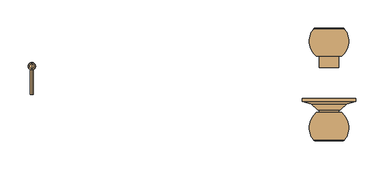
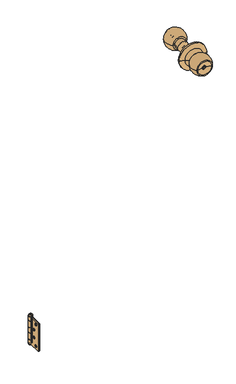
"""IFC4 building model written with IfcOpenShell, lengths in millimetres: door geometry, Puerta contraplacada : Puerta contraplacada 0.7x2.10 m."""

from ifc_helpers import new_model, si_unit, point, frame, frame_2d, origin, place, context, project, spatial, polyline, circle_curve, ellipse_curve, trimmed, segment, composite_curve, outline, extrude, source, transform, mapped, element, save
from ifc_brep_helpers import plane_surface, cylinder_surface, revolved_surface, advanced_brep


def door_609245de(model_context):
    return source(origin(), model_context, "Body", "SolidModel", [
        advanced_brep(
        [(-314.0, 7.5, 200.0349265), (-314.0, 7.5, 100.0349265), (-314.0, 51.5, 100.0349265), (-314.0, 51.5, 115.5349265), (-314.0, 51.0, 115.5349265), (-314.0, 51.0, 141.0349265), (-314.0, 51.5, 141.0349265), (-314.0, 51.5, 159.0349265), (-314.0, 51.0, 159.0349265), (-314.0, 51.0, 184.5349265), (-314.0, 51.5, 184.5349265), (-314.0, 51.5, 200.0349265), (-314.0, 17.5, 111.0349265), (-314.0, 25.5, 111.0349265), (-314.0, 28.5, 136.0349265), (-314.0, 36.5, 136.0349265), (-314.0, 17.5, 189.0349265), (-314.0, 25.5, 189.0349265), (-314.0, 28.5, 164.0349265), (-314.0, 36.5, 164.0349265), (-316.0, 7.5, 100.0349265), (-316.0, 7.5, 200.0349265), (-316.0, 53.027864, 200.0349265), (-316.0, 53.027864, 184.5349265), (-316.0, 51.0, 184.5349265), (-316.0, 51.0, 159.0349265), (-316.0, 53.027864, 159.0349265), (-316.0, 53.027864, 141.0349265), (-316.0, 51.0, 141.0349265), (-316.0, 51.0, 115.5349265), (-316.0, 53.027864, 115.5349265), (-316.0, 53.027864, 100.0349265), (-316.0, 25.5, 111.0349265), (-316.0, 17.5, 111.0349265), (-316.0, 36.5, 136.0349265), (-316.0, 28.5, 136.0349265), (-316.0, 25.5, 189.0349265), (-316.0, 17.5, 189.0349265), (-316.0, 36.5, 164.0349265), (-316.0, 28.5, 164.0349265), (-317.0, 53.027864, 100.0349265), (-317.0, 51.0192593, 100.0349265), (-317.0, 51.0192593, 200.0349265), (-317.0, 53.027864, 200.0349265), (-317.0, 53.027864, 184.5349265), (-317.0, 51.0192593, 184.5349265), (-317.0, 51.0192593, 159.0349265), (-317.0, 53.027864, 159.0349265), (-317.0, 53.027864, 141.0349265), (-317.0, 51.0192593, 141.0349265), (-317.0, 51.0192593, 115.5349265), (-317.0, 53.027864, 115.5349265)],
        [
            (0, 1),
            (1, 2),
            (2, 3),
            (3, 4),
            (4, 5),
            (5, 6),
            (6, 7),
            (7, 8),
            (8, 9),
            (9, 10),
            (10, 11),
            (11, 0),
            (12, 13, circle_curve(frame((-314.0, 21.5, 111.0349265), z_axis=(-1.0, 0.0, 0.0), x_axis=(0.0, -1.0, 0.0)), 4.0)),
            (13, 12, circle_curve(frame((-314.0, 21.5, 111.0349265), z_axis=(-1.0, 0.0, 0.0), x_axis=(0.0, -1.0, 0.0)), 4.0)),
            (14, 15, circle_curve(frame((-314.0, 32.5, 136.0349265), z_axis=(-1.0, 0.0, 0.0), x_axis=(0.0, -1.0, 0.0)), 4.0)),
            (15, 14, circle_curve(frame((-314.0, 32.5, 136.0349265), z_axis=(-1.0, 0.0, 0.0), x_axis=(0.0, -1.0, 0.0)), 4.0)),
            (16, 17, circle_curve(frame((-314.0, 21.5, 189.0349265), z_axis=(-1.0, 0.0, 0.0), x_axis=(0.0, -1.0, 0.0)), 4.0)),
            (17, 16, circle_curve(frame((-314.0, 21.5, 189.0349265), z_axis=(-1.0, 0.0, 0.0), x_axis=(0.0, -1.0, 0.0)), 4.0)),
            (18, 19, circle_curve(frame((-314.0, 32.5, 164.0349265), z_axis=(-1.0, 0.0, 0.0), x_axis=(0.0, -1.0, 0.0)), 4.0)),
            (19, 18, circle_curve(frame((-314.0, 32.5, 164.0349265), z_axis=(-1.0, 0.0, 0.0), x_axis=(0.0, -1.0, 0.0)), 4.0)),
            (20, 21),
            (21, 22),
            (22, 23),
            (23, 24),
            (24, 25),
            (25, 26),
            (26, 27),
            (27, 28),
            (28, 29),
            (29, 30),
            (30, 31),
            (31, 20),
            (32, 33, circle_curve(frame((-316.0, 21.5, 111.0349265), z_axis=(1.0, 0.0, 0.0), x_axis=(0.0, -1.0, 0.0)), 4.0)),
            (33, 32, circle_curve(frame((-316.0, 21.5, 111.0349265), z_axis=(1.0, 0.0, 0.0), x_axis=(0.0, -1.0, 0.0)), 4.0)),
            (34, 35, circle_curve(frame((-316.0, 32.5, 136.0349265), z_axis=(1.0, 0.0, 0.0), x_axis=(0.0, -1.0, 0.0)), 4.0)),
            (35, 34, circle_curve(frame((-316.0, 32.5, 136.0349265), z_axis=(1.0, 0.0, 0.0), x_axis=(0.0, -1.0, 0.0)), 4.0)),
            (36, 37, circle_curve(frame((-316.0, 21.5, 189.0349265), z_axis=(1.0, 0.0, 0.0), x_axis=(0.0, -1.0, 0.0)), 4.0)),
            (37, 36, circle_curve(frame((-316.0, 21.5, 189.0349265), z_axis=(1.0, 0.0, 0.0), x_axis=(0.0, -1.0, 0.0)), 4.0)),
            (38, 39, circle_curve(frame((-316.0, 32.5, 164.0349265), z_axis=(1.0, 0.0, 0.0), x_axis=(0.0, -1.0, 0.0)), 4.0)),
            (39, 38, circle_curve(frame((-316.0, 32.5, 164.0349265), z_axis=(1.0, 0.0, 0.0), x_axis=(0.0, -1.0, 0.0)), 4.0)),
            (1, 20),
            (31, 40, circle_curve(frame((-316.5, 57.5, 100.0349265), z_axis=(0.0, 0.0, 1.0), x_axis=(0.0, 1.0, 0.0)), 4.5)),
            (40, 41),
            (41, 2, circle_curve(frame((-316.5, 57.5, 100.0349265), z_axis=(0.0, 0.0, -1.0), x_axis=(0.0, 1.0, 0.0)), 6.5)),
            (0, 21),
            (11, 42, circle_curve(frame((-316.5, 57.5, 200.0349265), z_axis=(0.0, 0.0, 1.0), x_axis=(0.0, 1.0, 0.0)), 6.5)),
            (42, 43),
            (43, 22, circle_curve(frame((-316.5, 57.5, 200.0349265), z_axis=(0.0, 0.0, -1.0), x_axis=(0.0, 1.0, 0.0)), 4.5)),
            (24, 9),
            (8, 25),
            (28, 5),
            (4, 29),
            (23, 44, circle_curve(frame((-316.5, 57.5, 184.5349265), z_axis=(0.0, 0.0, 1.0), x_axis=(0.0, 1.0, 0.0)), 4.5)),
            (44, 45),
            (45, 10, circle_curve(frame((-316.5, 57.5, 184.5349265), z_axis=(0.0, 0.0, -1.0), x_axis=(0.0, 1.0, 0.0)), 6.5)),
            (45, 42),
            (44, 43),
            (7, 46, circle_curve(frame((-316.5, 57.5, 159.0349265), z_axis=(0.0, 0.0, 1.0), x_axis=(0.0, 1.0, 0.0)), 6.5)),
            (46, 47),
            (47, 26, circle_curve(frame((-316.5, 57.5, 159.0349265), z_axis=(0.0, 0.0, -1.0), x_axis=(0.0, 1.0, 0.0)), 4.5)),
            (27, 48, circle_curve(frame((-316.5, 57.5, 141.0349265), z_axis=(0.0, 0.0, 1.0), x_axis=(0.0, 1.0, 0.0)), 4.5)),
            (48, 49),
            (49, 6, circle_curve(frame((-316.5, 57.5, 141.0349265), z_axis=(0.0, 0.0, -1.0), x_axis=(0.0, 1.0, 0.0)), 6.5)),
            (49, 46),
            (48, 47),
            (3, 50, circle_curve(frame((-316.5, 57.5, 115.5349265), z_axis=(0.0, 0.0, 1.0), x_axis=(0.0, 1.0, 0.0)), 6.5)),
            (50, 51),
            (51, 30, circle_curve(frame((-316.5, 57.5, 115.5349265), z_axis=(0.0, 0.0, -1.0), x_axis=(0.0, 1.0, 0.0)), 4.5)),
            (41, 50),
            (40, 51),
            (32, 13),
            (12, 33),
            (34, 15),
            (14, 35),
            (36, 17),
            (16, 37),
            (38, 19),
            (18, 39),
        ],
        [
            plane_surface(frame((-314.0, 51.0, 100.0349265), z_axis=(1.0, 0.0, 0.0), x_axis=(0.0, 0.0, 1.0))),
            plane_surface(frame((-316.0, 51.0, 100.0349265), z_axis=(-1.0, 0.0, 0.0), x_axis=(0.0, 0.0, -1.0))),
            plane_surface(frame((-314.0, 7.5, 100.0349265), z_axis=(0.0, 0.0, -1.0), x_axis=(-1.0, 0.0, 0.0))),
            plane_surface(frame((-314.0, 7.5, 200.0349265), z_axis=(0.0, -1.0, 0.0), x_axis=(-1.0, 0.0, 0.0))),
            plane_surface(frame((-314.0, 51.0, 200.0349265), z_axis=(0.0, 0.0, 1.0), x_axis=(-1.0, 0.0, 0.0))),
            plane_surface(frame((-314.0, 51.0, 100.0349265), z_axis=(0.0, 1.0, 0.0), x_axis=(-1.0, 0.0, 0.0))),
            plane_surface(frame((-316.0, 51.0, 184.5349265), z_axis=(0.0, 0.0, -1.0), x_axis=(0.0, 1.0, 0.0))),
            cylinder_surface(frame((-316.5, 57.5, 184.5349265), z_axis=(0.0, 0.0, 1.0), x_axis=(0.0, 1.0, 0.0)), 6.5),
            plane_surface(frame((-317.0, 51.0192593, 200.0349265), z_axis=(1.0, 0.0, 0.0), x_axis=(0.0, 0.0, -1.0))),
            revolved_surface(polyline([(-316.5, 62.0, 184.5349265), (-316.5, 62.0, 200.0349265)]), (-316.5, 57.5, 184.5349265), (0.0, 0.0, -1.0)),
            plane_surface(frame((-316.0, 51.0, 159.0349265), z_axis=(0.0, 0.0, 1.0), x_axis=(0.0, -1.0, 0.0))),
            plane_surface(frame((-316.0, 51.0, 141.0349265), z_axis=(0.0, 0.0, -1.0), x_axis=(0.0, 1.0, 0.0))),
            cylinder_surface(frame((-316.5, 57.5, 141.0349265), z_axis=(0.0, 0.0, 1.0), x_axis=(0.0, 1.0, 0.0)), 6.5),
            plane_surface(frame((-317.0, 51.0192593, 159.0349265), z_axis=(1.0, 0.0, 0.0), x_axis=(0.0, 0.0, -1.0))),
            revolved_surface(polyline([(-316.5, 62.0, 141.0349265), (-316.5, 62.0, 159.0349265)]), (-316.5, 57.5, 141.0349265), (0.0, 0.0, -1.0)),
            plane_surface(frame((-316.0, 51.0, 115.5349265), z_axis=(0.0, 0.0, 1.0), x_axis=(0.0, -1.0, 0.0))),
            cylinder_surface(frame((-316.5, 57.5, 100.0349265), z_axis=(0.0, 0.0, 1.0), x_axis=(0.0, 1.0, 0.0)), 6.5),
            plane_surface(frame((-317.0, 51.0192593, 115.5349265), z_axis=(1.0, 0.0, 0.0), x_axis=(0.0, 0.0, -1.0))),
            revolved_surface(polyline([(-316.5, 62.0, 100.0349265), (-316.5, 62.0, 115.5349265)]), (-316.5, 57.5, 100.0349265), (0.0, 0.0, -1.0)),
            revolved_surface(polyline([(-314.0, 17.5, 111.0349265), (-316.0, 17.5, 111.0349265)]), (-319.0, 21.5, 111.0349265), (1.0, 0.0, 0.0)),
            revolved_surface(polyline([(-314.0, 28.5, 136.0349265), (-316.0, 28.5, 136.0349265)]), (-317.0, 32.5, 136.0349265), (1.0, 0.0, 0.0)),
            revolved_surface(polyline([(-314.0, 17.5, 189.0349265), (-316.0, 17.5, 189.0349265)]), (-317.0, 21.5, 189.0349265), (1.0, 0.0, 0.0)),
            revolved_surface(polyline([(-314.0, 28.5, 164.0349265), (-316.0, 28.5, 164.0349265)]), (-317.0, 32.5, 164.0349265), (1.0, 0.0, 0.0)),
        ],
        [
            (0, [[1, 2, 3, 4, 5, 6, 7, 8, 9, 10, 11, 12], [13, 14], [15, 16], [17, 18], [19, 20]]),
            (1, [[21, 22, 23, 24, 25, 26, 27, 28, 29, 30, 31, 32], [33, 34], [35, 36], [37, 38], [39, 40]]),
            (2, [[41, -32, 42, 43, 44, -2]]),
            (3, [[-1, 45, -21, -41]]),
            (4, [[-45, -12, 46, 47, 48, -22]]),
            (5, [[49, -9, 50, -25]]),
            (5, [[51, -5, 52, -29]]),
            (6, [[53, 54, 55, -10, -49, -24]]),
            (7, [[-46, -11, -55, 56]]),
            (8, [[-47, -56, -54, 57]]),
            (9, [[-48, -57, -53, -23]]),
            (10, [[58, 59, 60, -26, -50, -8]]),
            (11, [[61, 62, 63, -6, -51, -28]]),
            (12, [[-58, -7, -63, 64]]),
            (13, [[-59, -64, -62, 65]]),
            (14, [[-60, -65, -61, -27]]),
            (15, [[66, 67, 68, -30, -52, -4]]),
            (16, [[-66, -3, -44, 69]]),
            (17, [[-67, -69, -43, 70]]),
            (18, [[-68, -70, -42, -31]]),
            (19, [[71, -13, 72, -33]]),
            (19, [[-71, -34, -72, -14]]),
            (20, [[73, -15, 74, -35]]),
            (20, [[-73, -36, -74, -16]]),
            (21, [[75, -17, 76, -37]]),
            (21, [[-75, -38, -76, -18]]),
            (22, [[77, -19, 78, -39]]),
            (22, [[-77, -40, -78, -20]]),
        ],
    ),
        advanced_brep(
        [(-316.5, 53.0, 204.0349265), (-316.5, 61.9442719, 204.0349265), (-316.5, 61.9442719, 200.5349265), (-316.5, 53.0, 200.5349265), (-316.5, 57.472136, 204.0349265), (-316.5, 53.0, 96.0349265), (-316.5, 61.9442719, 96.0349265), (-316.5, 57.472136, 96.0349265), (-316.5, 53.0, 99.5349265), (-316.5, 61.9442719, 99.5349265)],
        [
            (0, 1, circle_curve(frame((-316.5, 57.472136, 204.0349265), z_axis=(0.0, 0.0, -1.0), x_axis=(0.0, 1.0, 0.0)), 4.472136)),
            (1, 2, circle_curve(frame((-316.5, 61.9442719, 202.2849265), z_axis=(-1.0, 0.0, 0.0), x_axis=(0.0, -1.0, 0.0)), 1.75)),
            (2, 3, circle_curve(frame((-316.5, 57.472136, 200.5349265), z_axis=(0.0, 0.0, 1.0), x_axis=(0.0, 1.0, 0.0)), 4.472136)),
            (3, 0, circle_curve(frame((-316.5, 53.0, 202.2849265), z_axis=(-1.0, 0.0, 0.0), x_axis=(0.0, 1.0, 0.0)), 1.75)),
            (1, 0, circle_curve(frame((-316.5, 57.472136, 204.0349265), z_axis=(0.0, 0.0, -1.0), x_axis=(0.0, 1.0, 0.0)), 4.472136)),
            (3, 2, circle_curve(frame((-316.5, 57.472136, 200.5349265), z_axis=(0.0, 0.0, 1.0), x_axis=(0.0, 1.0, 0.0)), 4.472136)),
            (4, 1),
            (0, 4),
            (5, 6, circle_curve(frame((-316.5, 57.472136, 96.0349265), z_axis=(0.0, 0.0, -1.0), x_axis=(0.0, 1.0, 0.0)), 4.472136)),
            (6, 7),
            (7, 5),
            (6, 5, circle_curve(frame((-316.5, 57.472136, 96.0349265), z_axis=(0.0, 0.0, -1.0), x_axis=(0.0, 1.0, 0.0)), 4.472136)),
            (8, 9, circle_curve(frame((-316.5, 57.472136, 99.5349265), z_axis=(0.0, 0.0, -1.0), x_axis=(0.0, 1.0, 0.0)), 4.472136)),
            (9, 6, circle_curve(frame((-316.5, 61.9442719, 97.7849265), z_axis=(-1.0, 0.0, 0.0), x_axis=(0.0, -1.0, 0.0)), 1.75)),
            (5, 8, circle_curve(frame((-316.5, 53.0, 97.7849265), z_axis=(-1.0, 0.0, 0.0), x_axis=(0.0, 1.0, 0.0)), 1.75)),
            (9, 8, circle_curve(frame((-316.5, 57.472136, 99.5349265), z_axis=(0.0, 0.0, -1.0), x_axis=(0.0, 1.0, 0.0)), 4.472136)),
            (2, 9),
            (8, 3),
        ],
        [
            revolved_surface(trimmed(ellipse_curve(frame((-316.5, 61.9442719, 202.2849265), z_axis=(1.0, 0.0, 0.0), x_axis=(0.0, -1.0, 0.0)), 1.75, 1.75), [point((-316.5, 61.9442719, 200.5349265))], [point((-316.5, 61.9442719, 204.0349265))], True, "CARTESIAN"), (-316.5, 57.472136, 204.0349265), (0.0, 0.0, 1.0)),
            plane_surface(frame((-316.5, 57.472136, 204.0349265), z_axis=(0.0, 0.0, 1.0), x_axis=(0.0, 1.0, 0.0))),
            plane_surface(frame((-316.5, 57.472136, 96.0349265), z_axis=(0.0, 0.0, -1.0), x_axis=(0.0, 1.0, 0.0))),
            revolved_surface(trimmed(ellipse_curve(frame((-316.5, 61.9442719, 97.7849265), z_axis=(1.0, 0.0, 0.0), x_axis=(0.0, -1.0, 0.0)), 1.75, 1.75), [point((-316.5, 61.9442719, 96.0349265))], [point((-316.5, 61.9442719, 99.5349265))], True, "CARTESIAN"), (-316.5, 57.472136, 204.0349265), (0.0, 0.0, 1.0)),
            cylinder_surface(frame((-316.5, 57.472136, 204.0349265), z_axis=(0.0, 0.0, 1.0), x_axis=(0.0, 1.0, 0.0)), 4.472136),
        ],
        [
            (0, [[1, 2, 3, 4]]),
            (0, [[5, -4, 6, -2]]),
            (1, [[7, -1, 8]]),
            (1, [[-8, -5, -7]]),
            (2, [[9, 10, 11]]),
            (2, [[12, -11, -10]]),
            (3, [[13, 14, -9, 15]]),
            (3, [[16, -15, -12, -14]]),
            (4, [[-3, 17, -13, 18]]),
            (4, [[-6, -18, -16, -17]]),
        ],
    ),
        advanced_brep(
        [(-317.0, 51.0, 200.0349265), (-317.0, 7.5, 200.0349265), (-317.0, 7.5, 100.0349265), (-317.0, 51.0, 100.0349265), (-317.0, 51.0, 116.5349265), (-317.0, 53.027864, 116.5349265), (-317.0, 53.027864, 140.0349265), (-317.0, 51.0, 140.0349265), (-317.0, 51.0, 160.0349265), (-317.0, 53.027864, 160.0349265), (-317.0, 53.027864, 183.5349265), (-317.0, 51.0, 183.5349265), (-317.0, 17.5, 111.0349265), (-317.0, 25.5, 111.0349265), (-317.0, 28.5, 136.0349265), (-317.0, 36.5, 136.0349265), (-317.0, 17.5, 189.0349265), (-317.0, 25.5, 189.0349265), (-317.0, 28.5, 164.0349265), (-317.0, 36.5, 164.0349265), (-319.0, 51.0, 100.0349265), (-319.0, 7.5, 100.0349265), (-319.0, 7.5, 200.0349265), (-319.0, 51.0, 200.0349265), (-319.0, 51.0, 183.5349265), (-319.0, 51.5, 183.5349265), (-319.0, 51.5, 160.0349265), (-319.0, 51.0, 160.0349265), (-319.0, 51.0, 140.0349265), (-319.0, 51.5, 140.0349265), (-319.0, 51.5, 116.5349265), (-319.0, 51.0, 116.5349265), (-319.0, 25.5, 111.0349265), (-319.0, 17.5, 111.0349265), (-319.0, 36.5, 136.0349265), (-319.0, 28.5, 136.0349265), (-319.0, 25.5, 189.0349265), (-319.0, 17.5, 189.0349265), (-319.0, 36.5, 164.0349265), (-319.0, 28.5, 164.0349265), (-316.0, 53.027864, 183.5349265), (-316.0, 51.0192593, 183.5349265), (-316.0, 51.0192593, 160.0349265), (-316.0, 53.027864, 160.0349265), (-316.0, 53.027864, 140.0349265), (-316.0, 51.0192593, 140.0349265), (-316.0, 51.0192593, 116.5349265), (-316.0, 53.027864, 116.5349265)],
        [
            (0, 1),
            (1, 2),
            (2, 3),
            (3, 4),
            (4, 5),
            (5, 6),
            (6, 7),
            (7, 8),
            (8, 9),
            (9, 10),
            (10, 11),
            (11, 0),
            (12, 13, circle_curve(frame((-317.0, 21.5, 111.0349265), z_axis=(-1.0, 0.0, 0.0), x_axis=(0.0, -1.0, 0.0)), 4.0)),
            (13, 12, circle_curve(frame((-317.0, 21.5, 111.0349265), z_axis=(-1.0, 0.0, 0.0), x_axis=(0.0, -1.0, 0.0)), 4.0)),
            (14, 15, circle_curve(frame((-317.0, 32.5, 136.0349265), z_axis=(-1.0, 0.0, 0.0), x_axis=(0.0, -1.0, 0.0)), 4.0)),
            (15, 14, circle_curve(frame((-317.0, 32.5, 136.0349265), z_axis=(-1.0, 0.0, 0.0), x_axis=(0.0, -1.0, 0.0)), 4.0)),
            (16, 17, circle_curve(frame((-317.0, 21.5, 189.0349265), z_axis=(-1.0, 0.0, 0.0), x_axis=(0.0, -1.0, 0.0)), 4.0)),
            (17, 16, circle_curve(frame((-317.0, 21.5, 189.0349265), z_axis=(-1.0, 0.0, 0.0), x_axis=(0.0, -1.0, 0.0)), 4.0)),
            (18, 19, circle_curve(frame((-317.0, 32.5, 164.0349265), z_axis=(-1.0, 0.0, 0.0), x_axis=(0.0, -1.0, 0.0)), 4.0)),
            (19, 18, circle_curve(frame((-317.0, 32.5, 164.0349265), z_axis=(-1.0, 0.0, 0.0), x_axis=(0.0, -1.0, 0.0)), 4.0)),
            (20, 21),
            (21, 22),
            (22, 23),
            (23, 24),
            (24, 25),
            (25, 26),
            (26, 27),
            (27, 28),
            (28, 29),
            (29, 30),
            (30, 31),
            (31, 20),
            (32, 33, circle_curve(frame((-319.0, 21.5, 111.0349265), z_axis=(1.0, 0.0, 0.0), x_axis=(0.0, -1.0, 0.0)), 4.0)),
            (33, 32, circle_curve(frame((-319.0, 21.5, 111.0349265), z_axis=(1.0, 0.0, 0.0), x_axis=(0.0, -1.0, 0.0)), 4.0)),
            (34, 35, circle_curve(frame((-319.0, 32.5, 136.0349265), z_axis=(1.0, 0.0, 0.0), x_axis=(0.0, -1.0, 0.0)), 4.0)),
            (35, 34, circle_curve(frame((-319.0, 32.5, 136.0349265), z_axis=(1.0, 0.0, 0.0), x_axis=(0.0, -1.0, 0.0)), 4.0)),
            (36, 37, circle_curve(frame((-319.0, 21.5, 189.0349265), z_axis=(1.0, 0.0, 0.0), x_axis=(0.0, -1.0, 0.0)), 4.0)),
            (37, 36, circle_curve(frame((-319.0, 21.5, 189.0349265), z_axis=(1.0, 0.0, 0.0), x_axis=(0.0, -1.0, 0.0)), 4.0)),
            (38, 39, circle_curve(frame((-319.0, 32.5, 164.0349265), z_axis=(1.0, 0.0, 0.0), x_axis=(0.0, -1.0, 0.0)), 4.0)),
            (39, 38, circle_curve(frame((-319.0, 32.5, 164.0349265), z_axis=(1.0, 0.0, 0.0), x_axis=(0.0, -1.0, 0.0)), 4.0)),
            (2, 21),
            (20, 3),
            (1, 22),
            (0, 23),
            (11, 24),
            (31, 4),
            (27, 8),
            (7, 28),
            (10, 40, circle_curve(frame((-316.5, 57.5, 183.5349265), z_axis=(0.0, 0.0, -1.0), x_axis=(0.0, 1.0, 0.0)), 4.5)),
            (40, 41),
            (41, 25, circle_curve(frame((-316.5, 57.5, 183.5349265), z_axis=(0.0, 0.0, 1.0), x_axis=(0.0, 1.0, 0.0)), 6.5)),
            (26, 42, circle_curve(frame((-316.5, 57.5, 160.0349265), z_axis=(0.0, 0.0, -1.0), x_axis=(0.0, 1.0, 0.0)), 6.5)),
            (42, 43),
            (43, 9, circle_curve(frame((-316.5, 57.5, 160.0349265), z_axis=(0.0, 0.0, 1.0), x_axis=(0.0, 1.0, 0.0)), 4.5)),
            (41, 42),
            (40, 43),
            (6, 44, circle_curve(frame((-316.5, 57.5, 140.0349265), z_axis=(0.0, 0.0, -1.0), x_axis=(0.0, 1.0, 0.0)), 4.5)),
            (44, 45),
            (45, 29, circle_curve(frame((-316.5, 57.5, 140.0349265), z_axis=(0.0, 0.0, 1.0), x_axis=(0.0, 1.0, 0.0)), 6.5)),
            (30, 46, circle_curve(frame((-316.5, 57.5, 116.5349265), z_axis=(0.0, 0.0, -1.0), x_axis=(0.0, 1.0, 0.0)), 6.5)),
            (46, 47),
            (47, 5, circle_curve(frame((-316.5, 57.5, 116.5349265), z_axis=(0.0, 0.0, 1.0), x_axis=(0.0, 1.0, 0.0)), 4.5)),
            (45, 46),
            (44, 47),
            (32, 13),
            (12, 33),
            (34, 15),
            (14, 35),
            (36, 17),
            (16, 37),
            (38, 19),
            (18, 39),
        ],
        [
            plane_surface(frame((-317.0, 51.0, 100.0349265), z_axis=(1.0, 0.0, 0.0), x_axis=(0.0, 0.0, 1.0))),
            plane_surface(frame((-319.0, 51.0, 100.0349265), z_axis=(-1.0, 0.0, 0.0), x_axis=(0.0, 0.0, -1.0))),
            plane_surface(frame((-317.0, 7.5, 100.0349265), z_axis=(0.0, 0.0, -1.0), x_axis=(-1.0, 0.0, 0.0))),
            plane_surface(frame((-317.0, 7.5, 200.0349265), z_axis=(0.0, -1.0, 0.0), x_axis=(-1.0, 0.0, 0.0))),
            plane_surface(frame((-317.0, 51.0, 200.0349265), z_axis=(0.0, 0.0, 1.0), x_axis=(-1.0, 0.0, 0.0))),
            plane_surface(frame((-317.0, 51.0, 100.0349265), z_axis=(0.0, 1.0, 0.0), x_axis=(-1.0, 0.0, 0.0))),
            plane_surface(frame((-316.5, 62.0, 183.5349265), z_axis=(0.0, 0.0, 1.0), x_axis=(1.0, 0.0, 0.0))),
            plane_surface(frame((-316.5, 62.0, 160.0349265), z_axis=(0.0, 0.0, -1.0), x_axis=(-1.0, 0.0, 0.0))),
            cylinder_surface(frame((-316.5, 57.5, 160.0349265), z_axis=(0.0, 0.0, 1.0), x_axis=(0.0, 1.0, 0.0)), 6.5),
            plane_surface(frame((-316.0, 53.027864, 183.5349265), z_axis=(-1.0, 0.0, 0.0), x_axis=(0.0, 0.0, -1.0))),
            revolved_surface(polyline([(-316.5, 62.0, 160.0349265), (-316.5, 62.0, 183.5349265)]), (-316.5, 57.5, 160.0349265), (0.0, 0.0, -1.0)),
            plane_surface(frame((-316.5, 62.0, 140.0349265), z_axis=(0.0, 0.0, 1.0), x_axis=(1.0, 0.0, 0.0))),
            plane_surface(frame((-316.5, 62.0, 116.5349265), z_axis=(0.0, 0.0, -1.0), x_axis=(-1.0, 0.0, 0.0))),
            cylinder_surface(frame((-316.5, 57.5, 116.5349265), z_axis=(0.0, 0.0, 1.0), x_axis=(0.0, 1.0, 0.0)), 6.5),
            plane_surface(frame((-316.0, 53.027864, 140.0349265), z_axis=(-1.0, 0.0, 0.0), x_axis=(0.0, 0.0, -1.0))),
            revolved_surface(polyline([(-316.5, 62.0, 116.5349265), (-316.5, 62.0, 140.0349265)]), (-316.5, 57.5, 116.5349265), (0.0, 0.0, -1.0)),
            revolved_surface(polyline([(-317.0, 17.5, 111.0349265), (-319.0, 17.5, 111.0349265)]), (-319.0, 21.5, 111.0349265), (1.0, 0.0, 0.0)),
            revolved_surface(polyline([(-317.0, 28.5, 136.0349265), (-319.0, 28.5, 136.0349265)]), (-317.0, 32.5, 136.0349265), (1.0, 0.0, 0.0)),
            revolved_surface(polyline([(-317.0, 17.5, 189.0349265), (-319.0, 17.5, 189.0349265)]), (-317.0, 21.5, 189.0349265), (1.0, 0.0, 0.0)),
            revolved_surface(polyline([(-317.0, 28.5, 164.0349265), (-319.0, 28.5, 164.0349265)]), (-317.0, 32.5, 164.0349265), (1.0, 0.0, 0.0)),
        ],
        [
            (0, [[1, 2, 3, 4, 5, 6, 7, 8, 9, 10, 11, 12], [13, 14], [15, 16], [17, 18], [19, 20]]),
            (1, [[21, 22, 23, 24, 25, 26, 27, 28, 29, 30, 31, 32], [33, 34], [35, 36], [37, 38], [39, 40]]),
            (2, [[-3, 41, -21, 42]]),
            (3, [[-2, 43, -22, -41]]),
            (4, [[-1, 44, -23, -43]]),
            (5, [[-44, -12, 45, -24]]),
            (5, [[-42, -32, 46, -4]]),
            (5, [[47, -8, 48, -28]]),
            (6, [[49, 50, 51, -25, -45, -11]]),
            (7, [[52, 53, 54, -9, -47, -27]]),
            (8, [[-51, 55, -52, -26]]),
            (9, [[-50, 56, -53, -55]]),
            (10, [[-49, -10, -54, -56]]),
            (11, [[57, 58, 59, -29, -48, -7]]),
            (12, [[60, 61, 62, -5, -46, -31]]),
            (13, [[-59, 63, -60, -30]]),
            (14, [[-58, 64, -61, -63]]),
            (15, [[-57, -6, -62, -64]]),
            (16, [[65, -13, 66, -33]]),
            (16, [[-65, -34, -66, -14]]),
            (17, [[67, -15, 68, -35]]),
            (17, [[-67, -36, -68, -16]]),
            (18, [[69, -17, 70, -37]]),
            (18, [[-69, -38, -70, -18]]),
            (19, [[71, -19, 72, -39]]),
            (19, [[-71, -40, -72, -20]]),
        ],
    ),
        advanced_brep(
        [(233.5312643, -74.946362, 1000.0), (187.0312357, -74.946362, 1000.0), (204.08125, -70.0573491, 1000.0), (216.48125, -70.0573491, 1000.0), (204.08125, -66.5726145, 1000.0), (216.48125, -66.5726145, 1000.0), (210.28125, -66.5726145, 1000.0), (187.840796, -25.0, 1000.0), (232.721704, -25.0, 1000.0), (211.28125, -25.0, 1000.0), (211.28125, -25.0, 1004.2233344), (210.28125, -25.0, 1004.2233344), (210.28125, -25.0, 1000.0), (209.28125, -25.0, 1000.0), (209.28125, -25.0, 998.7784645), (210.28125, -25.0, 998.7784645), (210.28125, -25.0, 997.5508857), (209.28125, -25.0, 997.5508857), (209.28125, -25.0, 995.9198337), (211.28125, -25.0, 995.9198337), (182.8579738, -73.6071088, 1000.0), (237.7045262, -73.6071088, 1000.0), (211.28125, -33.4273855, 995.9198337), (209.28125, -33.4273855, 995.9198337), (209.28125, -33.4273855, 997.5508857), (210.28125, -33.4273855, 997.5508857), (210.28125, -33.4273855, 998.7784645), (209.28125, -33.4273855, 998.7784645), (209.28125, -33.4273855, 1000.0), (210.28125, -33.4273855, 1000.0), (210.28125, -33.4273855, 1004.2233344), (211.28125, -33.4273855, 1004.2233344)],
        [
            (0, 1, circle_curve(frame((210.28125, -74.946362, 1000.0), z_axis=(0.0, -1.0, 0.0), x_axis=(-1.0, 0.0, 0.0)), 23.2500143)),
            (1, 2),
            (2, 3, circle_curve(frame((210.28125, -70.0573491, 1000.0), z_axis=(0.0, 1.0, 0.0), x_axis=(-1.0, 0.0, 0.0)), 6.2)),
            (3, 0),
            (1, 0, circle_curve(frame((210.28125, -74.946362, 1000.0), z_axis=(0.0, -1.0, 0.0), x_axis=(-1.0, 0.0, 0.0)), 23.2500143)),
            (3, 2, circle_curve(frame((210.28125, -70.0573491, 1000.0), z_axis=(0.0, 1.0, 0.0), x_axis=(-1.0, 0.0, 0.0)), 6.2)),
            (2, 4),
            (4, 5, circle_curve(frame((210.28125, -66.5726145, 1000.0), z_axis=(0.0, 1.0, 0.0), x_axis=(-1.0, 0.0, 0.0)), 6.2)),
            (5, 3),
            (5, 4, circle_curve(frame((210.28125, -66.5726145, 1000.0), z_axis=(0.0, 1.0, 0.0), x_axis=(-1.0, 0.0, 0.0)), 6.2)),
            (4, 6),
            (6, 5),
            (7, 8, circle_curve(frame((210.28125, -25.0, 1000.0), z_axis=(0.0, 1.0, 0.0), x_axis=(-1.0, 0.0, 0.0)), 22.440454)),
            (8, 9),
            (9, 10),
            (10, 11),
            (11, 12),
            (12, 13),
            (13, 7),
            (8, 7, circle_curve(frame((210.28125, -25.0, 1000.0), z_axis=(0.0, 1.0, 0.0), x_axis=(-1.0, 0.0, 0.0)), 22.440454)),
            (13, 14),
            (14, 15),
            (15, 16),
            (16, 17),
            (17, 18),
            (18, 19),
            (19, 9),
            (7, 20, circle_curve(frame((210.28125, -51.859375, 1000.0), z_axis=(0.0, 0.0, 1.0), x_axis=(1.0, 0.0, 0.0)), 35.0)),
            (20, 21, circle_curve(frame((210.28125, -73.6071088, 1000.0), z_axis=(0.0, 1.0, 0.0), x_axis=(-1.0, 0.0, 0.0)), 27.4232762)),
            (21, 8, circle_curve(frame((210.28125, -51.859375, 1000.0), z_axis=(0.0, 0.0, 1.0), x_axis=(-1.0, 0.0, 0.0)), 35.0)),
            (21, 20, circle_curve(frame((210.28125, -73.6071088, 1000.0), z_axis=(0.0, 1.0, 0.0), x_axis=(-1.0, 0.0, 0.0)), 27.4232762)),
            (0, 21, circle_curve(frame((234.6173206, -71.1588336, 1000.0), z_axis=(0.0, 0.0, 1.0), x_axis=(-1.0, 0.0, 0.0)), 3.9401636)),
            (20, 1, circle_curve(frame((185.9451794, -71.1588336, 1000.0), z_axis=(0.0, 0.0, 1.0), x_axis=(1.0, 0.0, 0.0)), 3.9401636)),
            (22, 23),
            (23, 24),
            (24, 25),
            (25, 26),
            (26, 27),
            (27, 28),
            (28, 29),
            (29, 30),
            (30, 31),
            (31, 22),
            (22, 19),
            (18, 23),
            (17, 24),
            (16, 25),
            (15, 26),
            (14, 27),
            (13, 28),
            (12, 29),
            (11, 30),
            (10, 31),
        ],
        [
            revolved_surface(polyline([(204.08125, -70.0573491, 1000.0), (187.0312357, -74.946362, 1000.0)]), (210.28125, -27.0, 1000.0), (0.0, 1.0, 0.0)),
            revolved_surface(polyline([(204.08125, -66.5726145, 1000.0), (204.08125, -70.0573491, 1000.0)]), (210.28125, -27.0, 1000.0), (0.0, 1.0, 0.0)),
            plane_surface(frame((210.28125, -66.5726145, 1000.0), z_axis=(0.0, -1.0, 0.0), x_axis=(-1.0, 0.0, 0.0))),
            plane_surface(frame((210.28125, -25.0, 1000.0), z_axis=(0.0, 1.0, 0.0), x_axis=(-1.0, 0.0, 0.0))),
            revolved_surface(trimmed(ellipse_curve(frame((210.28125, -51.859375, 1000.0), z_axis=(0.0, 0.0, -1.0), x_axis=(1.0, 0.0, 0.0)), 35.0, 35.0), [point((182.8579738, -73.6071088, 1000.0))], [point((187.840796, -25.0, 1000.0))], True, "CARTESIAN"), (210.28125, -27.0, 1000.0), (0.0, 1.0, 0.0)),
            revolved_surface(trimmed(ellipse_curve(frame((185.9451794, -71.1588336, 1000.0), z_axis=(0.0, 0.0, -1.0), x_axis=(1.0, 0.0, 0.0)), 3.9401636, 3.9401636), [point((187.0312357, -74.946362, 1000.0))], [point((182.8579738, -73.6071088, 1000.0))], True, "CARTESIAN"), (210.28125, -27.0, 1000.0), (0.0, 1.0, 0.0)),
            plane_surface(frame((209.28125, -33.4273855, 995.9198337), z_axis=(0.0, 1.0, 0.0), x_axis=(1.0, 0.0, 0.0))),
            plane_surface(frame((211.28125, -18.8970167, 995.9198337), z_axis=(0.0, 0.0, 1.0), x_axis=(0.0, -1.0, 0.0))),
            plane_surface(frame((209.28125, -18.8970167, 995.9198337), z_axis=(1.0, 0.0, 0.0), x_axis=(0.0, -1.0, 0.0))),
            plane_surface(frame((209.28125, -18.8970167, 997.5508857), z_axis=(0.0, 0.0, -1.0), x_axis=(0.0, -1.0, 0.0))),
            plane_surface(frame((210.28125, -18.8970167, 997.5508857), z_axis=(1.0, 0.0, 0.0), x_axis=(0.0, -1.0, 0.0))),
            plane_surface(frame((210.28125, -18.8970167, 998.7784645), z_axis=(0.0, 0.0, 1.0), x_axis=(0.0, -1.0, 0.0))),
            plane_surface(frame((209.28125, -18.8970167, 998.7784645), z_axis=(1.0, 0.0, 0.0), x_axis=(0.0, -1.0, 0.0))),
            plane_surface(frame((209.28125, -18.8970167, 1000.0), z_axis=(0.0, 0.0, -1.0), x_axis=(0.0, -1.0, 0.0))),
            plane_surface(frame((210.28125, -18.8970167, 1000.0), z_axis=(1.0, 0.0, 0.0), x_axis=(0.0, -1.0, 0.0))),
            plane_surface(frame((210.28125, -18.8970167, 1004.2233344), z_axis=(0.0, 0.0, -1.0), x_axis=(0.0, -1.0, 0.0))),
            plane_surface(frame((211.28125, -18.8970167, 1004.2233344), z_axis=(-1.0, 0.0, 0.0), x_axis=(0.0, -1.0, 0.0))),
        ],
        [
            (0, [[1, 2, 3, 4]]),
            (0, [[-2, 5, -4, 6]]),
            (1, [[-3, 7, 8, 9]]),
            (1, [[-6, -9, 10, -7]]),
            (2, [[-8, 11, 12]]),
            (2, [[-10, -12, -11]]),
            (3, [[13, 14, 15, 16, 17, 18, 19]]),
            (3, [[20, -19, 21, 22, 23, 24, 25, 26, 27, -14]]),
            (4, [[-13, 28, 29, 30]]),
            (4, [[-20, -30, 31, -28]]),
            (5, [[-1, 32, -29, 33]]),
            (5, [[-5, -33, -31, -32]]),
            (6, [[34, 35, 36, 37, 38, 39, 40, 41, 42, 43]]),
            (7, [[-34, 44, -26, 45]]),
            (8, [[-35, -45, -25, 46]]),
            (9, [[-36, -46, -24, 47]]),
            (10, [[-37, -47, -23, 48]]),
            (11, [[-38, -48, -22, 49]]),
            (12, [[-39, -49, -21, 50]]),
            (13, [[-40, -50, -18, 51]]),
            (14, [[-41, -51, -17, 52]]),
            (15, [[-42, -52, -16, 53]]),
            (16, [[-43, -53, -15, -27, -44]]),
        ],
    ),
        advanced_brep(
        [(192.78125, -5.0, 1000.0), (227.78125, -5.0, 1000.0), (192.78125, -25.0, 1000.0), (227.78125, -25.0, 1000.0), (211.28125, -25.0, 995.9198337), (209.28125, -25.0, 995.9198337), (209.28125, -25.0, 997.5508857), (210.28125, -25.0, 997.5508857), (210.28125, -25.0, 998.7784645), (209.28125, -25.0, 998.7784645), (209.28125, -25.0, 1000.0), (210.28125, -25.0, 1000.0), (210.28125, -25.0, 1004.2233344), (211.28125, -25.0, 1004.2233344), (211.28125, -18.8970167, 995.9198337), (211.28125, -18.8970167, 1004.2233344), (210.28125, -18.8970167, 1004.2233344), (210.28125, -18.8970167, 1000.0), (209.28125, -18.8970167, 1000.0), (209.28125, -18.8970167, 998.7784645), (210.28125, -18.8970167, 998.7784645), (210.28125, -18.8970167, 997.5508857), (209.28125, -18.8970167, 997.5508857), (209.28125, -18.8970167, 995.9198337)],
        [
            (0, 1, circle_curve(frame((210.28125, -5.0, 1000.0), z_axis=(0.0, 1.0, 0.0), x_axis=(1.0, 0.0, 0.0)), 17.5)),
            (1, 0, circle_curve(frame((210.28125, -5.0, 1000.0), z_axis=(0.0, 1.0, 0.0), x_axis=(1.0, 0.0, 0.0)), 17.5)),
            (2, 3, circle_curve(frame((210.28125, -25.0, 1000.0), z_axis=(0.0, -1.0, 0.0), x_axis=(1.0, 0.0, 0.0)), 17.5)),
            (3, 2, circle_curve(frame((210.28125, -25.0, 1000.0), z_axis=(0.0, -1.0, 0.0), x_axis=(1.0, 0.0, 0.0)), 17.5)),
            (4, 5),
            (5, 6),
            (6, 7),
            (7, 8),
            (8, 9),
            (9, 10),
            (10, 11),
            (11, 12),
            (12, 13),
            (13, 4),
            (0, 2),
            (3, 1),
            (14, 15),
            (15, 16),
            (16, 17),
            (17, 18),
            (18, 19),
            (19, 20),
            (20, 21),
            (21, 22),
            (22, 23),
            (23, 14),
            (23, 5),
            (4, 14),
            (22, 6),
            (21, 7),
            (20, 8),
            (19, 9),
            (18, 10),
            (17, 11),
            (16, 12),
            (15, 13),
        ],
        [
            plane_surface(frame((227.78125, -5.0, 1000.0), z_axis=(0.0, 1.0, 0.0), x_axis=(0.0, 0.0, -1.0))),
            plane_surface(frame((227.78125, -25.0, 1000.0), z_axis=(0.0, -1.0, 0.0), x_axis=(0.0, 0.0, 1.0))),
            cylinder_surface(frame((210.28125, -25.0, 1000.0), z_axis=(0.0, 1.0, 0.0), x_axis=(1.0, 0.0, 0.0)), 17.5),
            plane_surface(frame((209.28125, -18.8970167, 995.9198337), z_axis=(0.0, -1.0, 0.0), x_axis=(-1.0, 0.0, 0.0))),
            plane_surface(frame((211.28125, -18.8970167, 995.9198337), z_axis=(0.0, 0.0, 1.0), x_axis=(0.0, -1.0, 0.0))),
            plane_surface(frame((209.28125, -18.8970167, 995.9198337), z_axis=(1.0, 0.0, 0.0), x_axis=(0.0, -1.0, 0.0))),
            plane_surface(frame((209.28125, -18.8970167, 997.5508857), z_axis=(0.0, 0.0, -1.0), x_axis=(0.0, -1.0, 0.0))),
            plane_surface(frame((210.28125, -18.8970167, 997.5508857), z_axis=(1.0, 0.0, 0.0), x_axis=(0.0, -1.0, 0.0))),
            plane_surface(frame((210.28125, -18.8970167, 998.7784645), z_axis=(0.0, 0.0, 1.0), x_axis=(0.0, -1.0, 0.0))),
            plane_surface(frame((209.28125, -18.8970167, 998.7784645), z_axis=(1.0, 0.0, 0.0), x_axis=(0.0, -1.0, 0.0))),
            plane_surface(frame((209.28125, -18.8970167, 1000.0), z_axis=(0.0, 0.0, -1.0), x_axis=(0.0, -1.0, 0.0))),
            plane_surface(frame((210.28125, -18.8970167, 1000.0), z_axis=(1.0, 0.0, 0.0), x_axis=(0.0, -1.0, 0.0))),
            plane_surface(frame((210.28125, -18.8970167, 1004.2233344), z_axis=(0.0, 0.0, -1.0), x_axis=(0.0, -1.0, 0.0))),
            plane_surface(frame((211.28125, -18.8970167, 1004.2233344), z_axis=(-1.0, 0.0, 0.0), x_axis=(0.0, -1.0, 0.0))),
        ],
        [
            (0, [[1, 2]]),
            (1, [[3, 4], [5, 6, 7, 8, 9, 10, 11, 12, 13, 14]]),
            (2, [[-1, 15, -4, 16]]),
            (2, [[-2, -16, -3, -15]]),
            (3, [[17, 18, 19, 20, 21, 22, 23, 24, 25, 26]]),
            (4, [[-26, 27, -5, 28]]),
            (5, [[-25, 29, -6, -27]]),
            (6, [[-24, 30, -7, -29]]),
            (7, [[-23, 31, -8, -30]]),
            (8, [[-22, 32, -9, -31]]),
            (9, [[-21, 33, -10, -32]]),
            (10, [[-20, 34, -11, -33]]),
            (11, [[-19, 35, -12, -34]]),
            (12, [[-18, 36, -13, -35]]),
            (13, [[-17, -28, -14, -36]]),
        ],
    ),
        advanced_brep(
        [(216.203125, 120.0573491, 1000.0), (204.359375, 120.0573491, 1000.0), (204.359375, 116.5726145, 1000.0), (216.203125, 116.5726145, 1000.0), (215.203125, 120.0573491, 1000.0), (205.359375, 120.0573491, 1000.0), (211.28125, 120.0573491, 1000.0), (211.28125, 120.0573491, 1004.2233344), (210.28125, 120.0573491, 1004.2233344), (210.28125, 120.0573491, 1000.0), (209.28125, 120.0573491, 1000.0), (209.28125, 120.0573491, 998.7784645), (210.28125, 120.0573491, 998.7784645), (210.28125, 120.0573491, 997.5508857), (209.28125, 120.0573491, 997.5508857), (209.28125, 120.0573491, 995.9198337), (211.28125, 120.0573491, 995.9198337), (209.28125, 116.5726145, 1000.0), (210.28125, 116.5726145, 1000.0), (210.28125, 116.5726145, 1004.2233344), (211.28125, 116.5726145, 1004.2233344), (211.28125, 116.5726145, 1000.0), (211.28125, 116.5726145, 995.9198337), (209.28125, 116.5726145, 995.9198337), (209.28125, 116.5726145, 997.5508857), (210.28125, 116.5726145, 997.5508857), (210.28125, 116.5726145, 998.7784645), (209.28125, 116.5726145, 998.7784645)],
        [
            (0, 1, circle_curve(frame((210.28125, 120.0573491, 1000.0), z_axis=(0.0, -1.0, 0.0), x_axis=(-1.0, 0.0, 0.0)), 5.921875)),
            (1, 2),
            (2, 3, circle_curve(frame((210.28125, 116.5726145, 1000.0), z_axis=(0.0, 1.0, 0.0), x_axis=(-1.0, 0.0, 0.0)), 5.921875)),
            (3, 0),
            (1, 0, circle_curve(frame((210.28125, 120.0573491, 1000.0), z_axis=(0.0, -1.0, 0.0), x_axis=(-1.0, 0.0, 0.0)), 5.921875)),
            (3, 2, circle_curve(frame((210.28125, 116.5726145, 1000.0), z_axis=(0.0, 1.0, 0.0), x_axis=(-1.0, 0.0, 0.0)), 5.921875)),
            (0, 4, circle_curve(frame((215.703125, 120.0573491, 1000.0), z_axis=(0.0, 0.0, 1.0), x_axis=(-1.0, 0.0, 0.0)), 0.5)),
            (4, 5, circle_curve(frame((210.28125, 120.0573491, 1000.0), z_axis=(0.0, -1.0, 0.0), x_axis=(-1.0, 0.0, 0.0)), 4.921875)),
            (5, 1, circle_curve(frame((204.859375, 120.0573491, 1000.0), z_axis=(0.0, 0.0, 1.0), x_axis=(1.0, 0.0, 0.0)), 0.5)),
            (5, 4, circle_curve(frame((210.28125, 120.0573491, 1000.0), z_axis=(0.0, -1.0, 0.0), x_axis=(-1.0, 0.0, 0.0)), 4.921875)),
            (4, 6),
            (6, 7),
            (7, 8),
            (8, 9),
            (9, 10),
            (10, 5),
            (10, 11),
            (11, 12),
            (12, 13),
            (13, 14),
            (14, 15),
            (15, 16),
            (16, 6),
            (2, 17),
            (17, 18),
            (18, 19),
            (19, 20),
            (20, 21),
            (21, 3),
            (21, 22),
            (22, 23),
            (23, 24),
            (24, 25),
            (25, 26),
            (26, 27),
            (27, 17),
            (22, 16),
            (15, 23),
            (14, 24),
            (13, 25),
            (12, 26),
            (11, 27),
            (10, 17),
            (9, 18),
            (8, 19),
            (7, 20),
        ],
        [
            cylinder_surface(frame((210.28125, 116.5726145, 1000.0), z_axis=(0.0, 1.0, 0.0), x_axis=(-1.0, 0.0, 0.0)), 5.921875),
            revolved_surface(trimmed(ellipse_curve(frame((204.859375, 120.0573491, 1000.0), z_axis=(0.0, 0.0, -1.0), x_axis=(1.0, 0.0, 0.0)), 0.5, 0.5), [point((204.359375, 120.0573491, 1000.0))], [point((205.359375, 120.0573491, 1000.0))], True, "CARTESIAN"), (210.28125, 116.5726145, 1000.0), (0.0, 1.0, 0.0)),
            plane_surface(frame((210.28125, 120.0573491, 1000.0), z_axis=(0.0, 1.0, 0.0), x_axis=(-1.0, 0.0, 0.0))),
            plane_surface(frame((210.28125, 116.5726145, 1000.0), z_axis=(0.0, -1.0, 0.0), x_axis=(-1.0, 0.0, 0.0))),
            plane_surface(frame((211.28125, 131.1029833, 995.9198337), z_axis=(0.0, 0.0, 1.0), x_axis=(0.0, -1.0, 0.0))),
            plane_surface(frame((209.28125, 131.1029833, 995.9198337), z_axis=(1.0, 0.0, 0.0), x_axis=(0.0, -1.0, 0.0))),
            plane_surface(frame((209.28125, 131.1029833, 997.5508857), z_axis=(0.0, 0.0, -1.0), x_axis=(0.0, -1.0, 0.0))),
            plane_surface(frame((210.28125, 131.1029833, 997.5508857), z_axis=(1.0, 0.0, 0.0), x_axis=(0.0, -1.0, 0.0))),
            plane_surface(frame((210.28125, 131.1029833, 998.7784645), z_axis=(0.0, 0.0, 1.0), x_axis=(0.0, -1.0, 0.0))),
            plane_surface(frame((209.28125, 131.1029833, 998.7784645), z_axis=(1.0, 0.0, 0.0), x_axis=(0.0, -1.0, 0.0))),
            plane_surface(frame((209.28125, 131.1029833, 1000.0), z_axis=(0.0, 0.0, -1.0), x_axis=(0.0, -1.0, 0.0))),
            plane_surface(frame((210.28125, 131.1029833, 1000.0), z_axis=(1.0, 0.0, 0.0), x_axis=(0.0, -1.0, 0.0))),
            plane_surface(frame((210.28125, 131.1029833, 1004.2233344), z_axis=(0.0, 0.0, -1.0), x_axis=(0.0, -1.0, 0.0))),
            plane_surface(frame((211.28125, 131.1029833, 1004.2233344), z_axis=(-1.0, 0.0, 0.0), x_axis=(0.0, -1.0, 0.0))),
        ],
        [
            (0, [[1, 2, 3, 4]]),
            (0, [[-2, 5, -4, 6]]),
            (1, [[-1, 7, 8, 9]]),
            (1, [[-5, -9, 10, -7]]),
            (2, [[-8, 11, 12, 13, 14, 15, 16]]),
            (2, [[-10, -16, 17, 18, 19, 20, 21, 22, 23, -11]]),
            (3, [[-3, 24, 25, 26, 27, 28, 29]]),
            (3, [[-6, -29, 30, 31, 32, 33, 34, 35, 36, -24]]),
            (4, [[37, -22, 38, -31]]),
            (5, [[-38, -21, 39, -32]]),
            (6, [[-39, -20, 40, -33]]),
            (7, [[-40, -19, 41, -34]]),
            (8, [[-41, -18, 42, -35]]),
            (9, [[43, -36, -42, -17]]),
            (10, [[-43, -15, 44, -25]]),
            (11, [[-44, -14, 45, -26]]),
            (12, [[-45, -13, 46, -27]]),
            (13, [[-37, -30, -28, -46, -12, -23]]),
        ],
    ),
        advanced_brep(
        [(216.48125, 120.0573491, 1000.0), (204.08125, 120.0573491, 1000.0), (187.0312357, 124.946362, 1000.0), (233.5312643, 124.946362, 1000.0), (216.48125, 116.5726145, 1000.0), (204.08125, 116.5726145, 1000.0), (211.28125, 116.5726145, 1000.0), (210.28125, 116.5726145, 1000.0), (209.28125, 116.5726145, 1000.0), (232.721704, 75.0, 1000.0), (187.840796, 75.0, 1000.0), (210.28125, 75.0, 1000.0), (237.7045262, 123.6071088, 1000.0), (182.8579738, 123.6071088, 1000.0)],
        [
            (0, 1, circle_curve(frame((210.28125, 120.0573491, 1000.0), z_axis=(0.0, -1.0, 0.0), x_axis=(-1.0, 0.0, 0.0)), 6.2)),
            (1, 2),
            (2, 3, circle_curve(frame((210.28125, 124.946362, 1000.0), z_axis=(0.0, 1.0, 0.0), x_axis=(-1.0, 0.0, 0.0)), 23.2500143)),
            (3, 0),
            (1, 0, circle_curve(frame((210.28125, 120.0573491, 1000.0), z_axis=(0.0, -1.0, 0.0), x_axis=(-1.0, 0.0, 0.0)), 6.2)),
            (3, 2, circle_curve(frame((210.28125, 124.946362, 1000.0), z_axis=(0.0, 1.0, 0.0), x_axis=(-1.0, 0.0, 0.0)), 23.2500143)),
            (0, 4),
            (4, 5, circle_curve(frame((210.28125, 116.5726145, 1000.0), z_axis=(0.0, -1.0, 0.0), x_axis=(-1.0, 0.0, 0.0)), 6.2)),
            (5, 1),
            (5, 4, circle_curve(frame((210.28125, 116.5726145, 1000.0), z_axis=(0.0, -1.0, 0.0), x_axis=(-1.0, 0.0, 0.0)), 6.2)),
            (4, 6),
            (6, 7),
            (7, 8),
            (8, 5),
            (9, 10, circle_curve(frame((210.28125, 75.0, 1000.0), z_axis=(0.0, -1.0, 0.0), x_axis=(-1.0, 0.0, 0.0)), 22.440454)),
            (10, 11),
            (11, 9),
            (10, 9, circle_curve(frame((210.28125, 75.0, 1000.0), z_axis=(0.0, -1.0, 0.0), x_axis=(-1.0, 0.0, 0.0)), 22.440454)),
            (9, 12, circle_curve(frame((210.28125, 101.859375, 1000.0), z_axis=(0.0, 0.0, 1.0), x_axis=(-1.0, 0.0, 0.0)), 35.0)),
            (12, 13, circle_curve(frame((210.28125, 123.6071088, 1000.0), z_axis=(0.0, -1.0, 0.0), x_axis=(-1.0, 0.0, 0.0)), 27.4232762)),
            (13, 10, circle_curve(frame((210.28125, 101.859375, 1000.0), z_axis=(0.0, 0.0, 1.0), x_axis=(1.0, 0.0, 0.0)), 35.0)),
            (13, 12, circle_curve(frame((210.28125, 123.6071088, 1000.0), z_axis=(0.0, -1.0, 0.0), x_axis=(-1.0, 0.0, 0.0)), 27.4232762)),
            (2, 13, circle_curve(frame((185.9451794, 121.1588336, 1000.0), z_axis=(0.0, 0.0, 1.0), x_axis=(1.0, 0.0, 0.0)), 3.9401636)),
            (12, 3, circle_curve(frame((234.6173206, 121.1588336, 1000.0), z_axis=(0.0, 0.0, 1.0), x_axis=(-1.0, 0.0, 0.0)), 3.9401636)),
        ],
        [
            revolved_surface(polyline([(187.0312357, 124.946362, 1000.0), (204.08125, 120.0573491, 1000.0)]), (210.28125, 77.0, 1000.0), (0.0, 1.0, 0.0)),
            revolved_surface(polyline([(204.08125, 120.0573491, 1000.0), (204.08125, 116.5726145, 1000.0)]), (210.28125, 77.0, 1000.0), (0.0, 1.0, 0.0)),
            plane_surface(frame((210.28125, 116.5726145, 1000.0), z_axis=(0.0, 1.0, 0.0), x_axis=(-1.0, 0.0, 0.0))),
            plane_surface(frame((210.28125, 75.0, 1000.0), z_axis=(0.0, -1.0, 0.0), x_axis=(-1.0, 0.0, 0.0))),
            revolved_surface(trimmed(ellipse_curve(frame((210.28125, 101.859375, 1000.0), z_axis=(0.0, 0.0, -1.0), x_axis=(1.0, 0.0, 0.0)), 35.0, 35.0), [point((187.840796, 75.0, 1000.0))], [point((182.8579738, 123.6071088, 1000.0))], True, "CARTESIAN"), (210.28125, 77.0, 1000.0), (0.0, 1.0, 0.0)),
            revolved_surface(trimmed(ellipse_curve(frame((185.9451794, 121.1588336, 1000.0), z_axis=(0.0, 0.0, -1.0), x_axis=(1.0, 0.0, 0.0)), 3.9401636, 3.9401636), [point((182.8579738, 123.6071088, 1000.0))], [point((187.0312357, 124.946362, 1000.0))], True, "CARTESIAN"), (210.28125, 77.0, 1000.0), (0.0, 1.0, 0.0)),
        ],
        [
            (0, [[1, 2, 3, 4]]),
            (0, [[-2, 5, -4, 6]]),
            (1, [[-1, 7, 8, 9]]),
            (1, [[-5, -9, 10, -7]]),
            (2, [[-8, 11, 12, 13, 14]]),
            (2, [[-10, -14, -13, -12, -11]]),
            (3, [[15, 16, 17]]),
            (3, [[-16, 18, -17]]),
            (4, [[-15, 19, 20, 21]]),
            (4, [[-18, -21, 22, -19]]),
            (5, [[-3, 23, -20, 24]]),
            (5, [[-6, -24, -22, -23]]),
        ],
    ),
        advanced_brep(
        [(216.203125, -66.5726145, 1000.0), (204.359375, -66.5726145, 1000.0), (204.359375, -70.0573491, 1000.0), (216.203125, -70.0573491, 1000.0), (205.359375, -70.0573491, 1000.0), (215.203125, -70.0573491, 1000.0), (210.28125, -70.0573491, 1000.0), (210.28125, -66.5726145, 1000.0)],
        [
            (0, 1, circle_curve(frame((210.28125, -66.5726145, 1000.0), z_axis=(0.0, -1.0, 0.0), x_axis=(-1.0, 0.0, 0.0)), 5.921875)),
            (1, 2),
            (2, 3, circle_curve(frame((210.28125, -70.0573491, 1000.0), z_axis=(0.0, 1.0, 0.0), x_axis=(-1.0, 0.0, 0.0)), 5.921875)),
            (3, 0),
            (1, 0, circle_curve(frame((210.28125, -66.5726145, 1000.0), z_axis=(0.0, -1.0, 0.0), x_axis=(-1.0, 0.0, 0.0)), 5.921875)),
            (3, 2, circle_curve(frame((210.28125, -70.0573491, 1000.0), z_axis=(0.0, 1.0, 0.0), x_axis=(-1.0, 0.0, 0.0)), 5.921875)),
            (2, 4, circle_curve(frame((204.859375, -70.0573491, 1000.0), z_axis=(0.0, 0.0, 1.0), x_axis=(1.0, 0.0, 0.0)), 0.5)),
            (4, 5, circle_curve(frame((210.28125, -70.0573491, 1000.0), z_axis=(0.0, 1.0, 0.0), x_axis=(-1.0, 0.0, 0.0)), 4.921875)),
            (5, 3, circle_curve(frame((215.703125, -70.0573491, 1000.0), z_axis=(0.0, 0.0, 1.0), x_axis=(-1.0, 0.0, 0.0)), 0.5)),
            (5, 4, circle_curve(frame((210.28125, -70.0573491, 1000.0), z_axis=(0.0, 1.0, 0.0), x_axis=(-1.0, 0.0, 0.0)), 4.921875)),
            (4, 6),
            (6, 5),
            (7, 1),
            (0, 7),
        ],
        [
            cylinder_surface(frame((210.28125, -66.5726145, 1000.0), z_axis=(0.0, 1.0, 0.0), x_axis=(-1.0, 0.0, 0.0)), 5.921875),
            revolved_surface(trimmed(ellipse_curve(frame((204.859375, -70.0573491, 1000.0), z_axis=(0.0, 0.0, -1.0), x_axis=(1.0, 0.0, 0.0)), 0.5, 0.5), [point((205.359375, -70.0573491, 1000.0))], [point((204.359375, -70.0573491, 1000.0))], True, "CARTESIAN"), (210.28125, -66.5726145, 1000.0), (0.0, 1.0, 0.0)),
            plane_surface(frame((210.28125, -70.0573491, 1000.0), z_axis=(0.0, -1.0, 0.0), x_axis=(-1.0, 0.0, 0.0))),
            plane_surface(frame((210.28125, -66.5726145, 1000.0), z_axis=(0.0, 1.0, 0.0), x_axis=(-1.0, 0.0, 0.0))),
        ],
        [
            (0, [[1, 2, 3, 4]]),
            (0, [[5, -4, 6, -2]]),
            (1, [[-3, 7, 8, 9]]),
            (1, [[-6, -9, 10, -7]]),
            (2, [[-8, 11, 12]]),
            (2, [[-10, -12, -11]]),
            (3, [[13, -1, 14]]),
            (3, [[-14, -5, -13]]),
        ],
    ),
        advanced_brep(
        [(257.78125, 0.0, 1000.0), (162.78125, 0.0, 1000.0), (162.78125, -5.0, 1000.0), (257.78125, -5.0, 1000.0), (178.78125, -10.0, 1000.0), (241.78125, -10.0, 1000.0), (190.5796188, -20.0, 1000.0), (229.9828812, -20.0, 1000.0), (192.3883213, -20.0, 1000.0), (228.1741787, -20.0, 1000.0), (192.3883213, -5.0, 1000.0), (228.1741787, -5.0, 1000.0), (210.28125, -5.0, 1000.0), (210.28125, 0.0, 1000.0)],
        [
            (0, 1, circle_curve(frame((210.28125, 0.0, 1000.0), z_axis=(0.0, -1.0, 0.0), x_axis=(-1.0, 0.0, 0.0)), 47.5)),
            (1, 2),
            (2, 3, circle_curve(frame((210.28125, -5.0, 1000.0), z_axis=(0.0, 1.0, 0.0), x_axis=(-1.0, 0.0, 0.0)), 47.5)),
            (3, 0),
            (1, 0, circle_curve(frame((210.28125, 0.0, 1000.0), z_axis=(0.0, -1.0, 0.0), x_axis=(-1.0, 0.0, 0.0)), 47.5)),
            (3, 2, circle_curve(frame((210.28125, -5.0, 1000.0), z_axis=(0.0, 1.0, 0.0), x_axis=(-1.0, 0.0, 0.0)), 47.5)),
            (2, 4),
            (4, 5, circle_curve(frame((210.28125, -10.0, 1000.0), z_axis=(0.0, 1.0, 0.0), x_axis=(-1.0, 0.0, 0.0)), 31.5)),
            (5, 3),
            (5, 4, circle_curve(frame((210.28125, -10.0, 1000.0), z_axis=(0.0, 1.0, 0.0), x_axis=(-1.0, 0.0, 0.0)), 31.5)),
            (4, 6),
            (6, 7, circle_curve(frame((210.28125, -20.0, 1000.0), z_axis=(0.0, 1.0, 0.0), x_axis=(-1.0, 0.0, 0.0)), 19.7016312)),
            (7, 5),
            (7, 6, circle_curve(frame((210.28125, -20.0, 1000.0), z_axis=(0.0, 1.0, 0.0), x_axis=(-1.0, 0.0, 0.0)), 19.7016312)),
            (6, 8),
            (8, 9, circle_curve(frame((210.28125, -20.0, 1000.0), z_axis=(0.0, 1.0, 0.0), x_axis=(-1.0, 0.0, 0.0)), 17.8929287)),
            (9, 7),
            (9, 8, circle_curve(frame((210.28125, -20.0, 1000.0), z_axis=(0.0, 1.0, 0.0), x_axis=(-1.0, 0.0, 0.0)), 17.8929287)),
            (8, 10),
            (10, 11, circle_curve(frame((210.28125, -5.0, 1000.0), z_axis=(0.0, 1.0, 0.0), x_axis=(-1.0, 0.0, 0.0)), 17.8929287)),
            (11, 9),
            (11, 10, circle_curve(frame((210.28125, -5.0, 1000.0), z_axis=(0.0, 1.0, 0.0), x_axis=(-1.0, 0.0, 0.0)), 17.8929287)),
            (10, 12),
            (12, 11),
            (13, 1),
            (0, 13),
        ],
        [
            cylinder_surface(frame((210.28125, 0.0, 1000.0), z_axis=(0.0, 1.0, 0.0), x_axis=(-1.0, 0.0, 0.0)), 47.5),
            revolved_surface(polyline([(178.78125, -10.0, 1000.0), (162.78125, -5.0, 1000.0)]), (210.28125, 0.0, 1000.0), (0.0, 1.0, 0.0)),
            revolved_surface(polyline([(190.5796188, -20.0, 1000.0), (178.78125, -10.0, 1000.0)]), (210.28125, 0.0, 1000.0), (0.0, 1.0, 0.0)),
            plane_surface(frame((210.28125, -20.0, 1000.0), z_axis=(0.0, -1.0, 0.0), x_axis=(-1.0, 0.0, 0.0))),
            revolved_surface(polyline([(192.3883213, -5.0, 1000.0), (192.3883213, -20.0, 1000.0)]), (210.28125, 0.0, 1000.0), (0.0, 1.0, 0.0)),
            plane_surface(frame((210.28125, -5.0, 1000.0), z_axis=(0.0, -1.0, 0.0), x_axis=(-1.0, 0.0, 0.0))),
            plane_surface(frame((210.28125, 0.0, 1000.0), z_axis=(0.0, 1.0, 0.0), x_axis=(-1.0, 0.0, 0.0))),
        ],
        [
            (0, [[1, 2, 3, 4]]),
            (0, [[5, -4, 6, -2]]),
            (1, [[-3, 7, 8, 9]]),
            (1, [[-6, -9, 10, -7]]),
            (2, [[-8, 11, 12, 13]]),
            (2, [[-10, -13, 14, -11]]),
            (3, [[-12, 15, 16, 17]]),
            (3, [[-14, -17, 18, -15]]),
            (4, [[-16, 19, 20, 21]]),
            (4, [[-18, -21, 22, -19]]),
            (5, [[-20, 23, 24]]),
            (5, [[-22, -24, -23]]),
            (6, [[25, -1, 26]]),
            (6, [[-26, -5, -25]]),
        ],
    ),
        extrude(outline(composite_curve([segment(trimmed(circle_curve(frame_2d((1000.0, 210.28125)), 17.5), [point((1000.0, 192.78125))], [point((1000.0, 227.78125))], False, "CARTESIAN"), True, "CONTINUOUS"), segment(trimmed(circle_curve(frame_2d((1000.0, 210.28125)), 17.5), [point((1000.0, 227.78125))], [point((1000.0, 192.78125))], False, "CARTESIAN"), True, "CONTINUOUS")], self_intersect=False)), frame((0.0, 55.0, 0.0), z_axis=(0.0, 1.0, 0.0), x_axis=(0.0, 0.0, 1.0)), (0.0, 0.0, 1.0), 20.0),
    ])


if __name__ == "__main__":
    model = new_model("IFC4")
    model_context = context("Model", 3, world=origin())
    ifc_project = project(units=[si_unit("LENGTHUNIT", "METRE", prefix="MILLI")], contexts=[model_context])
    site = spatial("IfcSite", under=ifc_project)
    building = spatial("IfcBuilding", under=site)
    placement = place(None, origin())
    door_shape = door_609245de(model_context)
    element("IfcDoor", 1, ObjectType="Puerta contraplacada : Puerta contraplacada 0.7x2.10 m", at=placement, inside=building, context=model_context, shape_type="MappedRepresentation", body=[
        mapped(door_shape, transform((0.0, 0.0, 0.0), x_axis=(1.0, 0.0, 0.0), y_axis=(0.0, 1.0, 0.0), z_axis=(0.0, 0.0, 1.0))),
    ])
    save(model, "model.ifc")
